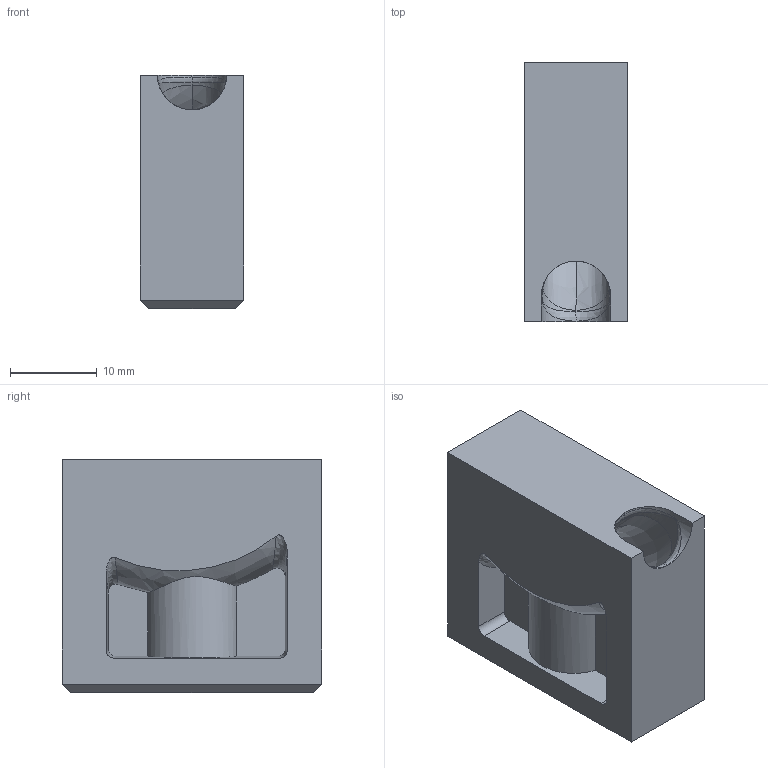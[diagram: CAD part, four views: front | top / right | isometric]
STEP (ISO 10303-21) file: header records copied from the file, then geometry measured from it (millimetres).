
FILE_DESCRIPTION((''),'2;1');
FILE_NAME('SGC3','2006-11-21T',('tmeister'),(''),'PRO/ENGINEER BY PARAMETRIC TECHNOLOGY CORPORATION, 2002390','PRO/ENGINEER BY PARAMETRIC TECHNOLOGY CORPORATION, 2002390','');
FILE_SCHEMA(('CONFIG_CONTROL_DESIGN'));
Length unit declared in the file: millimetre
Products named in the file (1): SGC3
Bounding box: 12 x 30 x 27 mm (x, y, z)
Volume: 7321.7 mm3; surface area: 4186.4 mm2
Topology: 1 solids, 2 shells, 59 faces, 152 edges, 98 vertices
Faces by surface type: plane 21, bspline 16, cylinder 12, cone 4, sphere 4, torus 2
Entity records: 5652 total; most frequent: CARTESIAN_POINT 4345, ORIENTED_EDGE 282, DIRECTION 208, EDGE_CURVE 143, VERTEX_POINT 90, AXIS2_PLACEMENT_3D 72, VECTOR 64, LINE 64
